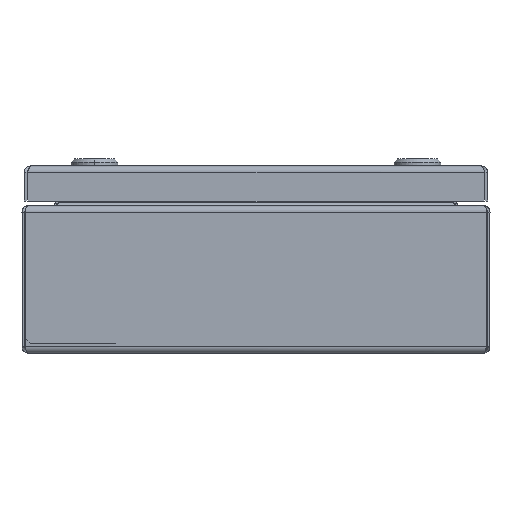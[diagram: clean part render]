
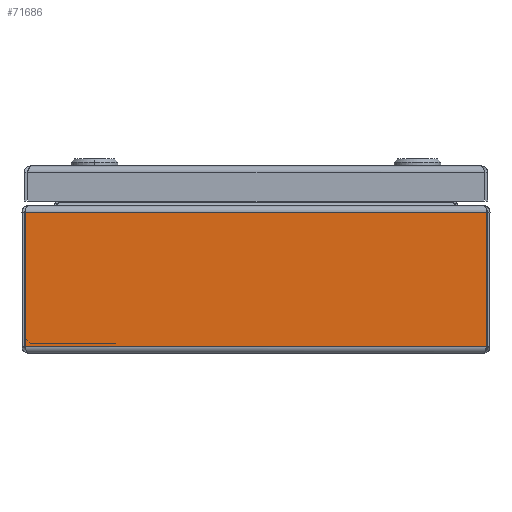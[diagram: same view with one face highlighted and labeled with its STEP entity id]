
A CAD part, left-side view. The second image highlights one B-rep face of the part: STEP entity #71686.
In plain terms, the highlighted planar face has unit normal (-1, 0, 0).
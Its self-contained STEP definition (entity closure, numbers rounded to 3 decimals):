
#2279 = EDGE_CURVE ( 'NONE', #27564, #47961, #20443, .T. ) ;
#2672 = EDGE_LOOP ( 'NONE', ( #24805, #68725, #50137, #86994 ) ) ;
#4265 = CARTESIAN_POINT ( 'NONE',  ( -150., -98.6, 2.7 ) ) ;
#7337 = FACE_OUTER_BOUND ( 'NONE', #2672, .T. ) ;
#7404 = CARTESIAN_POINT ( 'NONE',  ( -150., 98.6, 60.3 ) ) ;
#7859 = EDGE_CURVE ( 'NONE', #27564, #39862, #81888, .T. ) ;
#9095 = DIRECTION ( 'NONE',  ( 0., 1., 0. ) ) ;
#19809 = EDGE_CURVE ( 'NONE', #39862, #49596, #83671, .T. ) ;
#20232 = CARTESIAN_POINT ( 'NONE',  ( -150., -1600., 60.3 ) ) ;
#20443 = LINE ( 'NONE', #62613, #63716 ) ;
#21080 = CARTESIAN_POINT ( 'NONE',  ( -150., -98.6, 60.3 ) ) ;
#24805 = ORIENTED_EDGE ( 'NONE', *, *, #7859, .F. ) ;
#27564 = VERTEX_POINT ( 'NONE', #29906 ) ;
#28312 = DIRECTION ( 'NONE',  ( 0., 0., -1. ) ) ;
#29906 = CARTESIAN_POINT ( 'NONE',  ( -150., -98.6, 60.3 ) ) ;
#34047 = DIRECTION ( 'NONE',  ( 1., 0., 0. ) ) ;
#34345 = CARTESIAN_POINT ( 'NONE',  ( -150., 98.6, 60.3 ) ) ;
#38721 = VECTOR ( 'NONE', #9095, 1000. ) ;
#39689 = VECTOR ( 'NONE', #41574, 1000. ) ;
#39862 = VERTEX_POINT ( 'NONE', #4265 ) ;
#41574 = DIRECTION ( 'NONE',  ( 0., 0., -1. ) ) ;
#42072 = LINE ( 'NONE', #7404, #87145 ) ;
#47411 = EDGE_CURVE ( 'NONE', #47961, #49596, #42072, .T. ) ;
#47961 = VERTEX_POINT ( 'NONE', #34345 ) ;
#49532 = AXIS2_PLACEMENT_3D ( 'NONE', #20232, #34047, #55303 ) ;
#49596 = VERTEX_POINT ( 'NONE', #75995 ) ;
#50137 = ORIENTED_EDGE ( 'NONE', *, *, #47411, .T. ) ;
#55303 = DIRECTION ( 'NONE',  ( 0., 0., -1. ) ) ;
#57480 = CARTESIAN_POINT ( 'NONE',  ( -150., -1600., 2.7 ) ) ;
#60857 = DIRECTION ( 'NONE',  ( 0., 1., 0. ) ) ;
#62613 = CARTESIAN_POINT ( 'NONE',  ( -150., -1600., 60.3 ) ) ;
#63716 = VECTOR ( 'NONE', #60857, 1000. ) ;
#67707 = PLANE ( 'NONE',  #49532 ) ;
#68725 = ORIENTED_EDGE ( 'NONE', *, *, #2279, .T. ) ;
#71686 = ADVANCED_FACE ( 'NONE', ( #7337 ), #67707, .F. ) ;
#75995 = CARTESIAN_POINT ( 'NONE',  ( -150., 98.6, 2.7 ) ) ;
#81888 = LINE ( 'NONE', #21080, #39689 ) ;
#83671 = LINE ( 'NONE', #57480, #38721 ) ;
#86994 = ORIENTED_EDGE ( 'NONE', *, *, #19809, .F. ) ;
#87145 = VECTOR ( 'NONE', #28312, 1000. ) ;
